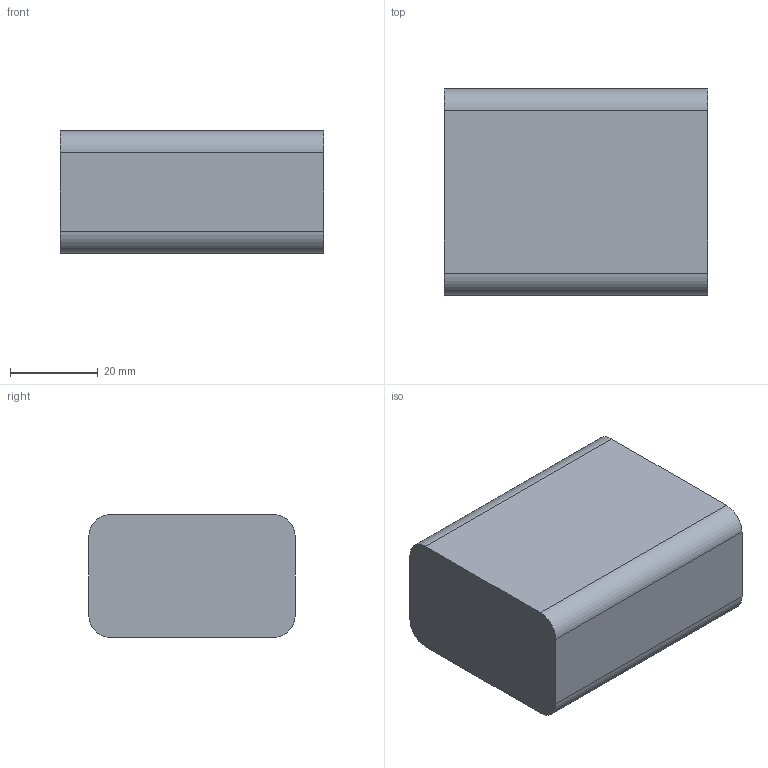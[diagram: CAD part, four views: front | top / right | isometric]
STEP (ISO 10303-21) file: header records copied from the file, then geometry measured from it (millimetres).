
FILE_DESCRIPTION (( 'STEP AP203' ), '1' );
FILE_NAME ('v4Sup_pilha_6_plano.STEP', '2026-08-19T20:49:51', ( '' ), ( '' ), 'SwSTEP 2.0', 'SolidWorks 2024', '' );
FILE_SCHEMA (( 'CONFIG_CONTROL_DESIGN' ));
Length unit declared in the file: millimetre
Products named in the file (1): v4Sup_pilha_6_plano
Bounding box: 60 x 47 x 28 mm (x, y, z)
Volume: 77672.4 mm3; surface area: 11074 mm2
Topology: 1 solids, 1 shells, 10 faces, 24 edges, 16 vertices
Faces by surface type: plane 6, cylinder 4
Entity records: 371 total; most frequent: DIRECTION 54, CARTESIAN_POINT 51, ORIENTED_EDGE 48, EDGE_CURVE 24, AXIS2_PLACEMENT_3D 19, VERTEX_POINT 16, VECTOR 16, LINE 16
